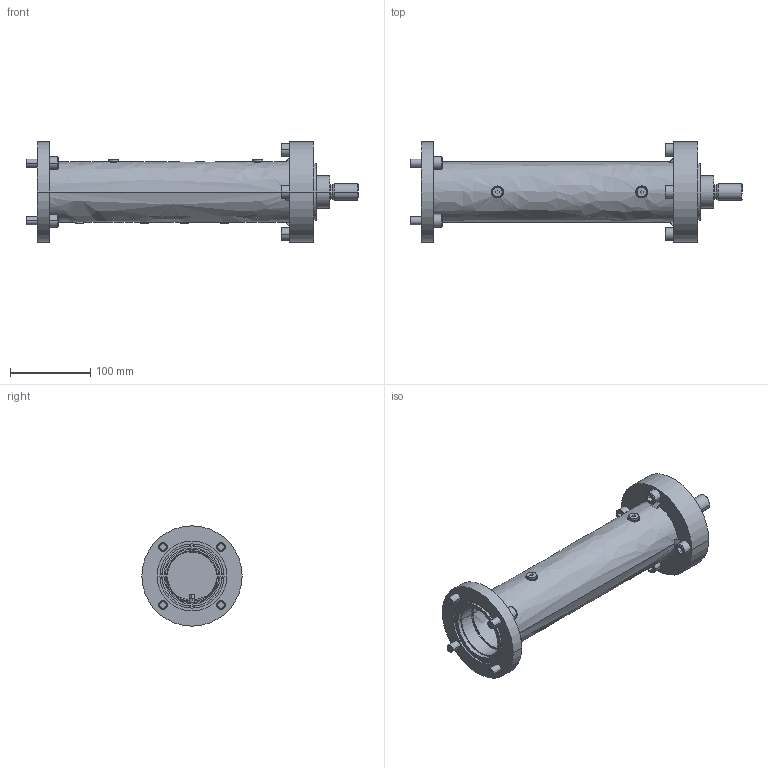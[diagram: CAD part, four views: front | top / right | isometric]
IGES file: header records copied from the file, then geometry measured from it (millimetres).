
Start section: Elysium IGES Interface
Global section: file name: \\sipapp01\Daten\Public\_BRN\Maßbilder - 3D - Explosionsdarstellungen\3D-Volumenmodelle SIPOS 7\Lineareinheiten 2SL78\KR_LA.1...11.igs; native system: Creo Elements/Direct Modeling 20.0C  26-Jan-2018; preprocessor: Creo Element/Direct IGES_3D V2.2; author: Unknown; organization: Unknown; date: 20200513.114248; units: millimetre
Bounding box: 414 x 125 x 125 mm (x, y, z)
Volume: 960882.3 mm3; surface area: 227039.8 mm2
Topology: 1 solids, 9 shells, 486 faces, 1096 edges, 686 vertices
Faces by surface type: bspline 486
